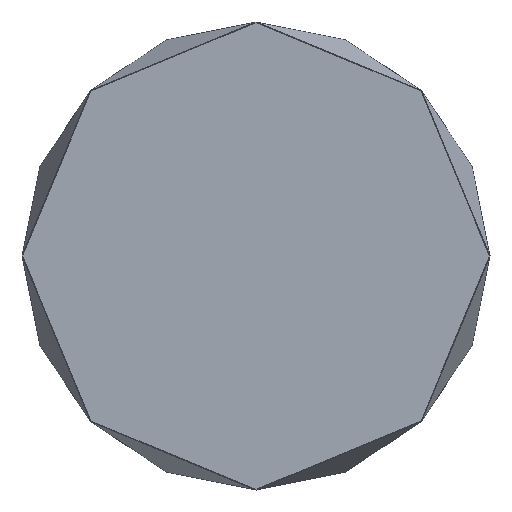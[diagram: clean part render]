
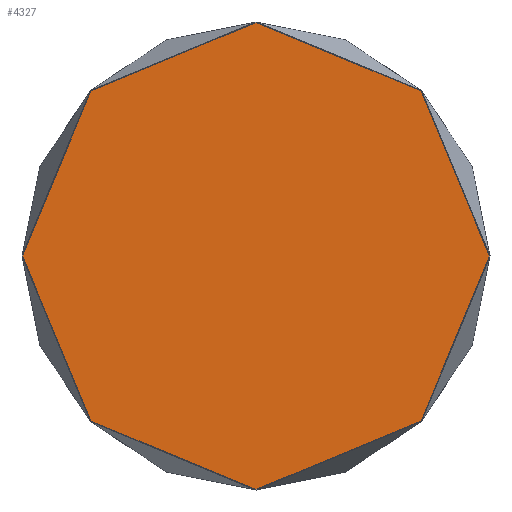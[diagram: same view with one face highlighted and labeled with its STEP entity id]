
A CAD part, front view. The second image highlights one B-rep face of the part: STEP entity #4327.
In plain terms, the highlighted planar face has unit normal (0, -1, 0).
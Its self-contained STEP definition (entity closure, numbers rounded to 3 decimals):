
#289=PLANE('',#4679);
#619=FACE_OUTER_BOUND('',#911,.T.);
#911=EDGE_LOOP('',(#3979,#3980,#3981,#3982,#3983,#3984,#3985,#3986));
#1396=LINE('',#8367,#1879);
#1400=LINE('',#8375,#1883);
#1403=LINE('',#8381,#1886);
#1406=LINE('',#8387,#1889);
#1409=LINE('',#8393,#1892);
#1412=LINE('',#8399,#1895);
#1415=LINE('',#8405,#1898);
#1418=LINE('',#8410,#1901);
#1879=VECTOR('',#5747,10.);
#1883=VECTOR('',#5753,10.);
#1886=VECTOR('',#5758,10.);
#1889=VECTOR('',#5763,10.);
#1892=VECTOR('',#5768,10.);
#1895=VECTOR('',#5773,10.);
#1898=VECTOR('',#5778,10.);
#1901=VECTOR('',#5783,10.);
#2279=VERTEX_POINT('',#8365);
#2280=VERTEX_POINT('',#8366);
#2283=VERTEX_POINT('',#8374);
#2285=VERTEX_POINT('',#8380);
#2287=VERTEX_POINT('',#8386);
#2289=VERTEX_POINT('',#8392);
#2291=VERTEX_POINT('',#8398);
#2293=VERTEX_POINT('',#8404);
#2839=EDGE_CURVE('',#2279,#2280,#1396,.T.);
#2843=EDGE_CURVE('',#2280,#2283,#1400,.T.);
#2846=EDGE_CURVE('',#2283,#2285,#1403,.T.);
#2849=EDGE_CURVE('',#2285,#2287,#1406,.T.);
#2852=EDGE_CURVE('',#2287,#2289,#1409,.T.);
#2855=EDGE_CURVE('',#2289,#2291,#1412,.T.);
#2858=EDGE_CURVE('',#2291,#2293,#1415,.T.);
#2861=EDGE_CURVE('',#2293,#2279,#1418,.T.);
#3979=ORIENTED_EDGE('',*,*,#2861,.T.);
#3980=ORIENTED_EDGE('',*,*,#2839,.T.);
#3981=ORIENTED_EDGE('',*,*,#2843,.T.);
#3982=ORIENTED_EDGE('',*,*,#2846,.T.);
#3983=ORIENTED_EDGE('',*,*,#2849,.T.);
#3984=ORIENTED_EDGE('',*,*,#2852,.T.);
#3985=ORIENTED_EDGE('',*,*,#2855,.T.);
#3986=ORIENTED_EDGE('',*,*,#2858,.T.);
#4327=ADVANCED_FACE('',(#619),#289,.F.);
#4679=AXIS2_PLACEMENT_3D('',#8413,#5787,#5788);
#5747=DIRECTION('',(-0.383,0.,0.924));
#5753=DIRECTION('',(-0.924,0.,0.383));
#5758=DIRECTION('',(-0.924,0.,-0.383));
#5763=DIRECTION('',(-0.383,0.,-0.924));
#5768=DIRECTION('',(0.383,0.,-0.924));
#5773=DIRECTION('',(0.924,0.,-0.383));
#5778=DIRECTION('',(0.924,0.,0.383));
#5783=DIRECTION('',(0.383,0.,0.924));
#5787=DIRECTION('center_axis',(0.,1.,0.));
#5788=DIRECTION('ref_axis',(-1.,0.,0.));
#8365=CARTESIAN_POINT('',(429.079,0.,0.));
#8366=CARTESIAN_POINT('',(303.405,0.,303.405));
#8367=CARTESIAN_POINT('',(429.079,0.,0.));
#8374=CARTESIAN_POINT('',(0.,0.,429.079));
#8375=CARTESIAN_POINT('',(303.405,0.,303.405));
#8380=CARTESIAN_POINT('',(-303.405,0.,303.405));
#8381=CARTESIAN_POINT('',(0.,0.,429.079));
#8386=CARTESIAN_POINT('',(-429.079,0.,0.));
#8387=CARTESIAN_POINT('',(-303.405,0.,303.405));
#8392=CARTESIAN_POINT('',(-303.405,0.,-303.405));
#8393=CARTESIAN_POINT('',(-429.079,0.,0.));
#8398=CARTESIAN_POINT('',(0.,0.,-429.079));
#8399=CARTESIAN_POINT('',(-303.405,0.,-303.405));
#8404=CARTESIAN_POINT('',(303.405,0.,-303.405));
#8405=CARTESIAN_POINT('',(0.,0.,-429.079));
#8410=CARTESIAN_POINT('',(303.405,0.,-303.405));
#8413=CARTESIAN_POINT('Origin',(0.,0.,0.));
